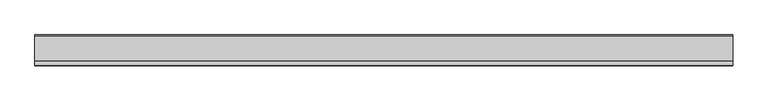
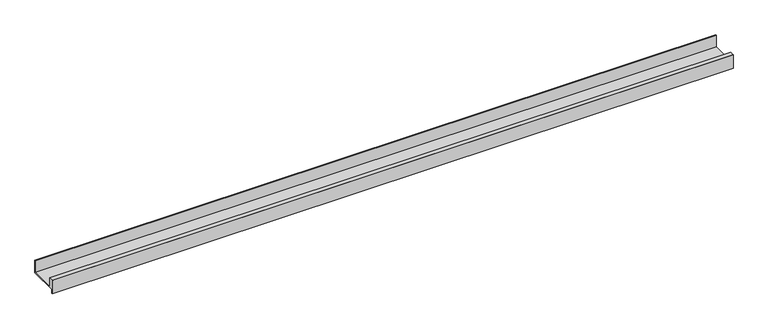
"""IFC4 building model written with IfcOpenShell, lengths in millimetres: light fixture geometry, Lighting-Cove-Lumenwerx-Evoq-Ramp-FC-Straight_Segment-Ceiling : EVOQRMP-FC-Straight."""

from ifc_helpers import new_model, si_unit, frame, origin, place, context, project, spatial, polyline, outline, extrude, source, transform, mapped, element, save


def light_fixture_c377eed7(model_context):
    return source(origin(), model_context, "Body", "SweptSolid", [
        extrude(outline(polyline([(-56.35625, -15.875), (-59.53125, -15.875), (-59.53125, 40.48125), (-43.65625, 40.48125), (-43.65625, 2.38125), (57.94375, 2.38125), (57.94375, 51.59375), (60.325, 51.59375), (60.325, 0.0), (-56.35625, 0.0), (-56.35625, -15.875)])), frame((-1371.6, 0.0, 0.0), z_axis=(1.0, 0.0, 0.0), x_axis=(0.0, 1.0, 0.0)), (0.0, 0.0, 1.0), 2743.2),
        extrude(outline(polyline([(-59.53125, -15.875), (-56.35625, -15.875), (-56.35625, -16.66875), (-60.325, -16.66875), (-60.325, 40.48125), (-59.53125, 40.48125), (-59.53125, -15.875)])), frame((-1371.6, 0.0, 0.0), z_axis=(1.0, 0.0, 0.0), x_axis=(0.0, 1.0, 0.0)), (0.0, 0.0, 1.0), 2743.2),
    ])


if __name__ == "__main__":
    model = new_model("IFC4")
    model_context = context("Model", 3, world=origin())
    ifc_project = project(units=[si_unit("LENGTHUNIT", "METRE", prefix="MILLI")], contexts=[model_context])
    site = spatial("IfcSite", under=ifc_project)
    building = spatial("IfcBuilding", under=site)
    placement = place(None, origin())
    light_fixture_shape = light_fixture_c377eed7(model_context)
    element("IfcLightFixture", 1, ObjectType="Lighting-Cove-Lumenwerx-Evoq-Ramp-FC-Straight_Segment-Ceiling : EVOQRMP-FC-Straight", at=placement, inside=building, context=model_context, shape_type="MappedRepresentation", body=[
        mapped(light_fixture_shape, transform((0.0, 0.0, 0.0), x_axis=(1.0, 0.0, 0.0), y_axis=(0.0, 1.0, 0.0), z_axis=(0.0, 0.0, 1.0))),
    ])
    save(model, "model.ifc")
